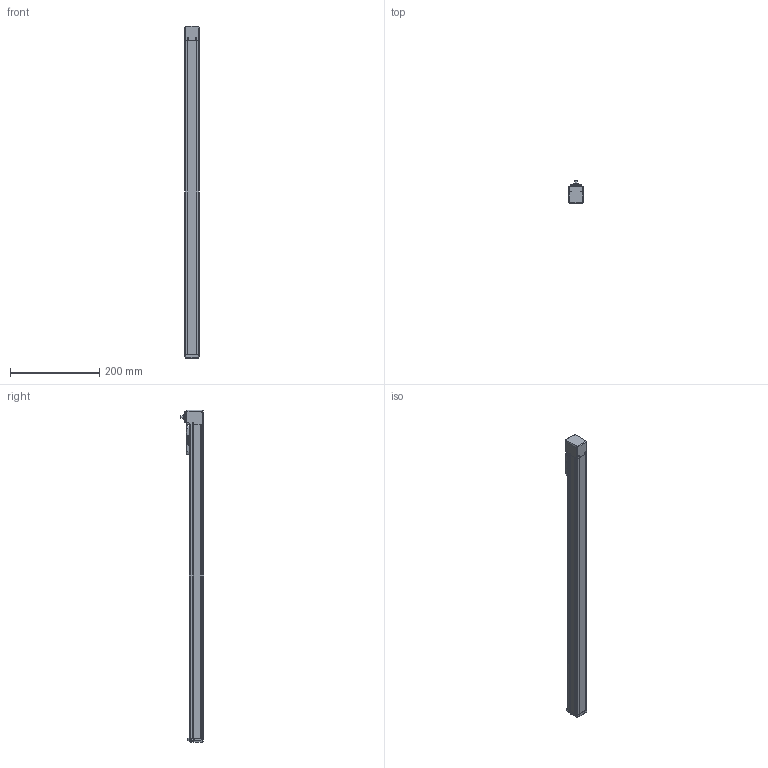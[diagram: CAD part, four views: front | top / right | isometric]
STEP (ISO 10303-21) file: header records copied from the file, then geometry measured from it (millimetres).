
FILE_DESCRIPTION(/* description */ ('STEP AP214'),/* implementation_level */ '2;1');
FILE_NAME(/* name */ 'MGTB 32 600(0)',/* time_stamp */ '2023-04-17T13:34:18+02:00',/* author */ ('License CC BY-ND 4.0'),/* organization */ ('CADENAS'),/* preprocessor_version */ 'ST-DEVELOPER v19.3',/* originating_system */ 'PARTsolutions',/* authorisation */ ' ');
FILE_SCHEMA (('AUTOMOTIVE_DESIGN {1 0 10303 214 3 1 1}'));
Length unit declared in the file: millimetre
Products named in the file (6): MGTB 32 600(0); MGTB 32 600_protection_strip; MGTB 32_carriage; MGTB 32_end_block; MGTB 32 600_profile; MGTB 32_drive_block
Assembly tree (5 placements, depth 2):
  MGTB 32 600(0)
    MGTB 32 600_protection_strip
    MGTB 32_carriage
    MGTB 32_end_block
    MGTB 32 600_profile
    MGTB 32_drive_block
Bounding box: 32 x 51.75 x 744.75 mm (x, y, z)
Volume: 709850.8 mm3; surface area: 171244.9 mm2
Topology: 5 solids, 5 shells, 664 faces, 1755 edges, 1129 vertices
Faces by surface type: plane 316, cylinder 171, cone 90, bspline 60, torus 25, sphere 2
Full cylindrical faces by diameter (mm): 1.155 x1, 1.567 x4, 1.755 x4, 1.8 x2, 2 x2, 2.3 x4, 2.459 x8, 2.46 x4, 2.5 x11, 3 x1, 3.8 x4, 4.5 x4, 5 x3, 7 x1, 7.5 x1, 9.6 x1, 19.5 x1, 25 x2
Entity records: 24513 total; most frequent: CARTESIAN_POINT 4239, DIRECTION 3359, ORIENTED_EDGE 3170, EDGE_CURVE 1585, AXIS2_PLACEMENT_3D 1204, VERTEX_POINT 1116, LINE 951, VECTOR 951
